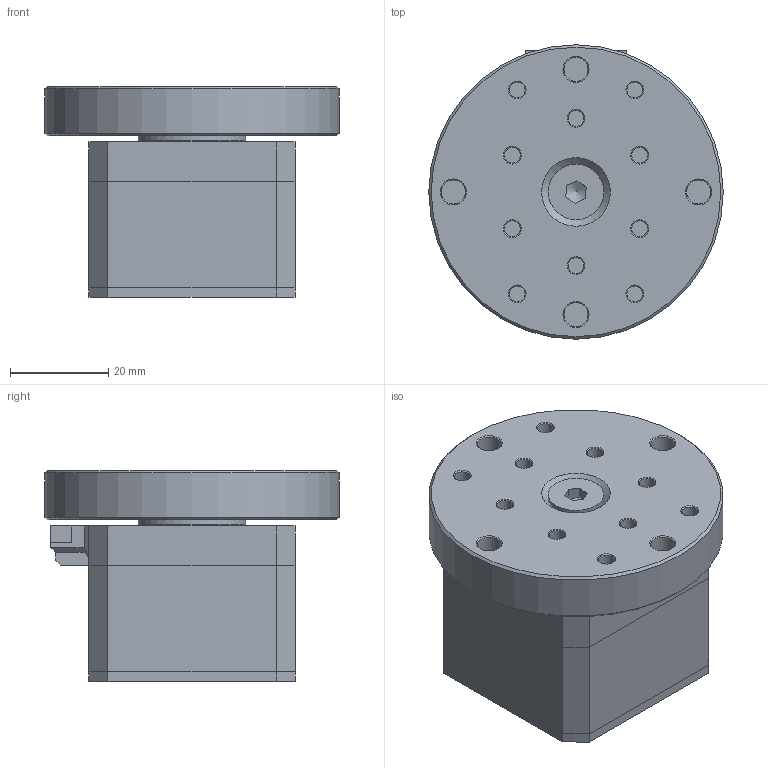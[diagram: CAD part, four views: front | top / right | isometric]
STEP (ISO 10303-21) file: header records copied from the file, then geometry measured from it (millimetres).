
FILE_DESCRIPTION(/* description */ (''),/* implementation_level */ '2;1');
FILE_NAME(/* name */ 'C:\ProgramData\PROCAD GmbH & Co. KG\NdfWork\339055_NdfWork\D00292470.step',/* time_stamp */ '2021-03-04T09:34:44+01:00',/* author */ ('motrebowski'),/* organization */ (''),/* preprocessor_version */ 'ST-DEVELOPER v18.1',/* originating_system */ 'Autodesk Inventor 2020',/* authorisation */ '');
FILE_SCHEMA (('AUTOMOTIVE_DESIGN { 1 0 10303 214 3 1 1 }'));
Length unit declared in the file: millimetre
Products named in the file (10): D00292470.iam; D00182663.ipt; D00196932.ipt; D00192126.ipt; D00115619.ipt; D00292488.ipt; D00175678.ipt; D00133498.ipt; D00193551; D00212228.ipt
Assembly tree (9 placements, depth 2):
  D00292470.iam
    D00182663.ipt
    D00196932.ipt
    D00192126.ipt
    D00115619.ipt
    D00292488.ipt
    D00175678.ipt
    D00133498.ipt
    D00193551
    D00212228.ipt
Bounding box: 60 x 60 x 43 mm (x, y, z)
Volume: 60083.3 mm3; surface area: 34842.8 mm2
Topology: 9 solids, 9 shells, 574 faces, 1527 edges, 1030 vertices
Faces by surface type: plane 422, cylinder 108, cone 34, torus 8, bspline 2
Full cylindrical faces by diameter (mm): 2 x9, 2.95 x2, 3 x2, 3.2 x8, 3.242 x10, 3.4 x4, 4.917 x5, 5.6 x4, 6 x2, 6.882 x1, 7.204 x1, 8 x1, 8.2 x1, 11.34 x1, 12 x1, 20.2 x1, 22 x2, 22.5 x1, 30 x2, 33 x2, 34 x1, 36.9 x2, 37 x1, 60 x1
Entity records: 18307 total; most frequent: CARTESIAN_POINT 3695, ORIENTED_EDGE 3052, DIRECTION 2965, EDGE_CURVE 1526, AXIS2_PLACEMENT_3D 1095, VERTEX_POINT 1030, LINE 775, VECTOR 775
